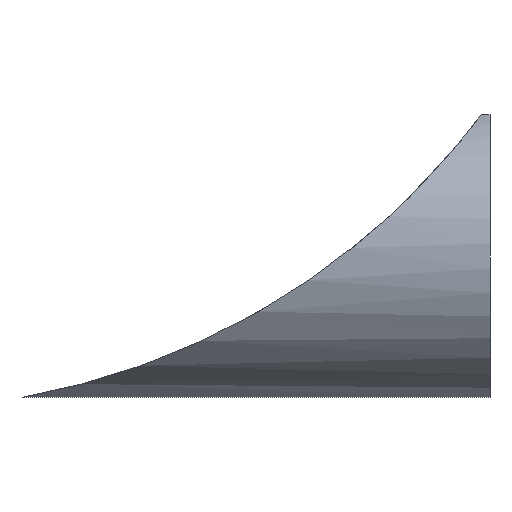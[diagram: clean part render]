
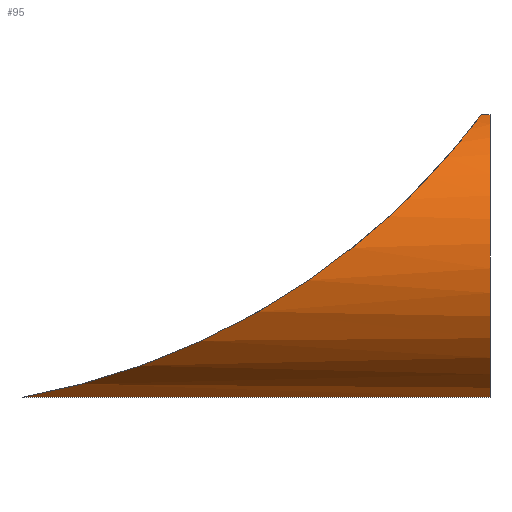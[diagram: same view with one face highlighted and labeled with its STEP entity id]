
A CAD part, front view. The second image highlights one B-rep face of the part: STEP entity #95.
In plain terms, the highlighted cylindrical face has radius 8.1 mm (diameter 16.2 mm), a partial arc.
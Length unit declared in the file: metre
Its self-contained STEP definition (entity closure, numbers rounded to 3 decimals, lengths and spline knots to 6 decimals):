
#13=B_SPLINE_CURVE_WITH_KNOTS('',3,(#180,#181,#182,#183,#184,#185,#186,
#187,#188,#189,#190),.UNSPECIFIED.,.F.,.F.,(4,1,1,1,1,1,1,1,4),(0.,
0.004107,0.008214,0.012322,0.016429,
0.020536,0.024643,0.02875,0.032857),
 .UNSPECIFIED.);
#15=CYLINDRICAL_SURFACE('',#117,0.0081);
#20=CIRCLE('',#118,0.0081);
#33=ORIENTED_EDGE('',*,*,#46,.T.);
#34=ORIENTED_EDGE('',*,*,#55,.T.);
#35=ORIENTED_EDGE('',*,*,#52,.F.);
#36=ORIENTED_EDGE('',*,*,#56,.F.);
#46=EDGE_CURVE('',#59,#57,#66,.T.);
#52=EDGE_CURVE('',#64,#62,#70,.T.);
#55=EDGE_CURVE('',#57,#62,#20,.F.);
#56=EDGE_CURVE('',#59,#64,#13,.T.);
#57=VERTEX_POINT('',#152);
#59=VERTEX_POINT('',#155);
#62=VERTEX_POINT('',#162);
#64=VERTEX_POINT('',#166);
#66=LINE('',#154,#72);
#70=LINE('',#167,#76);
#72=VECTOR('',#126,1.);
#76=VECTOR('',#136,1.);
#80=EDGE_LOOP('',(#33,#34,#35,#36));
#86=FACE_BOUND('',#80,.T.);
#95=ADVANCED_FACE('',(#86),#15,.T.);
#117=AXIS2_PLACEMENT_3D('',#178,#141,#142);
#118=AXIS2_PLACEMENT_3D('',#179,#143,#144);
#126=DIRECTION('',(1.,0.,0.));
#136=DIRECTION('',(1.,0.,0.));
#141=DIRECTION('',(1.,0.,0.));
#142=DIRECTION('',(0.,1.,0.));
#143=DIRECTION('',(1.,0.,0.));
#144=DIRECTION('',(0.,1.,0.));
#152=CARTESIAN_POINT('',(0.075,-0.000002,-0.039318));
#154=CARTESIAN_POINT('',(0.002498,-0.000002,-0.039318));
#155=CARTESIAN_POINT('',(0.04948,-0.000002,-0.039318));
#162=CARTESIAN_POINT('',(0.075,-0.000002,-0.02391));
#166=CARTESIAN_POINT('',(0.074516,-0.000002,-0.02391));
#167=CARTESIAN_POINT('',(0.002498,-0.000002,-0.02391));
#178=CARTESIAN_POINT('',(0.002498,0.0025,-0.031614));
#179=CARTESIAN_POINT('',(0.075,0.0025,-0.031614));
#180=CARTESIAN_POINT('',(0.04948,-0.000002,-0.039318));
#181=CARTESIAN_POINT('',(0.050685,-0.00066,-0.039105));
#182=CARTESIAN_POINT('',(0.053127,-0.001811,-0.038556));
#183=CARTESIAN_POINT('',(0.056756,-0.003307,-0.037373));
#184=CARTESIAN_POINT('',(0.060394,-0.004548,-0.035781));
#185=CARTESIAN_POINT('',(0.063926,-0.005411,-0.033793));
#186=CARTESIAN_POINT('',(0.067329,-0.005731,-0.031386));
#187=CARTESIAN_POINT('',(0.07045,-0.005234,-0.028645));
#188=CARTESIAN_POINT('',(0.073083,-0.003504,-0.02579));
#189=CARTESIAN_POINT('',(0.074199,-0.001305,-0.024334));
#190=CARTESIAN_POINT('',(0.074516,-0.000002,-0.02391));
